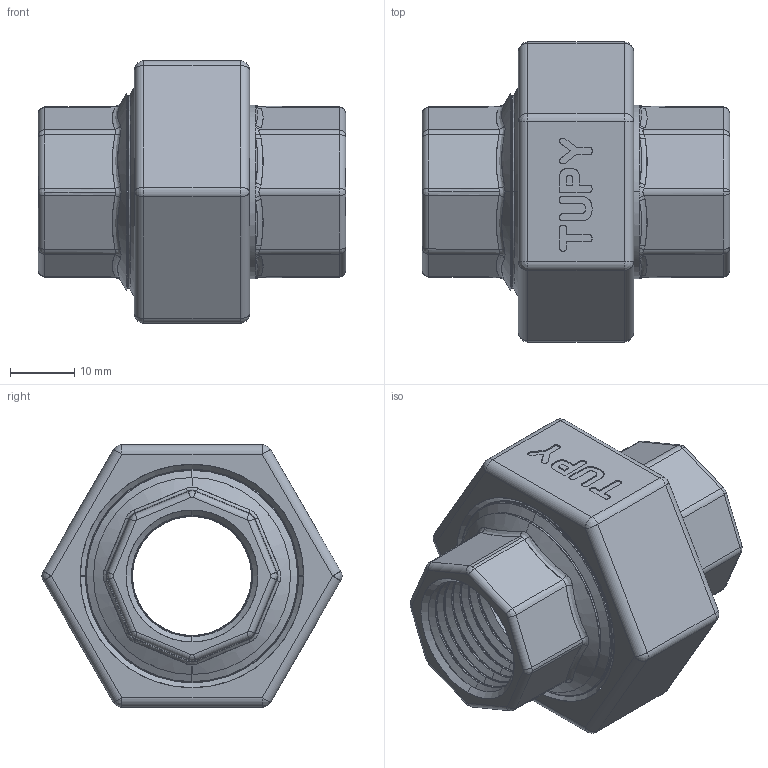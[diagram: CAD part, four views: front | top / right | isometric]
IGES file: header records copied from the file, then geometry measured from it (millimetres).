
Start section: SolidWorks IGES file using analytic representation for surfaces
Global section: file name: C:\Users\Joel Rosa\Desktop\Tubulação\12-62-X\12-62-004.IGS; native system: SolidWorks 2011; preprocessor: SolidWorks 2011; author: Joel Rosa; date: 130721.133958; units: millimetre
Bounding box: 48 x 46.88 x 41 mm (x, y, z)
Surface area: 17926.9 mm2 (no closed solid volume)
Topology: 0 solids, 0 shells, 524 faces, 3848 edges, 3840 vertices
Faces by surface type: bspline 324, revolution 200
